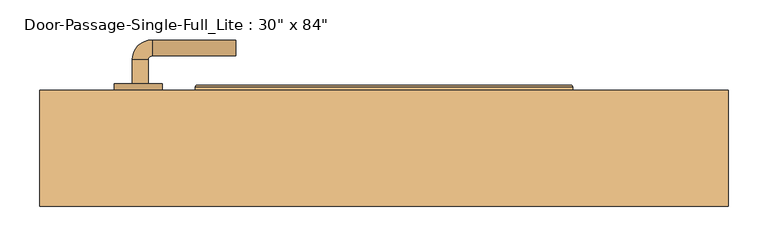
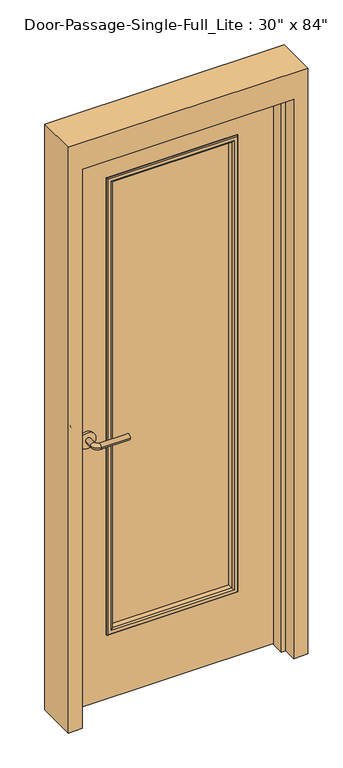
"""IFC4 building model written with IfcOpenShell, lengths in millimetres: door geometry."""

from ifc_helpers import new_model, si_unit, point, frame, frame_2d, origin, place, context, project, spatial, polyline, circle_curve, ellipse_curve, trimmed, segment, composite_curve, outline, extrude, faceted_brep, source, transform, mapped, element, save
from ifc_brep_helpers import plane_surface, cylinder_surface, revolved_surface, advanced_brep


def door_c549eee2(model_context):
    return source(origin(), model_context, "Body", "SolidModel", [
        advanced_brep(
        [(-315.990625, 80.9, 1016.0), (-295.990625, 80.9, 1016.0), (-295.990625, 50.9, 1016.0), (-315.990625, 50.9, 1016.0), (-290.990625, 45.9, 1016.0), (-290.990625, 25.9, 1016.0), (-185.990625, 25.9, 1016.0), (-185.990625, 45.9, 1016.0)],
        [
            (0, 1, circle_curve(frame((-305.990625, 80.9, 1016.0), z_axis=(0.0, 1.0, 0.0), x_axis=(1.0, 0.0, 0.0)), 10.0)),
            (1, 0, circle_curve(frame((-305.990625, 80.9, 1016.0), z_axis=(0.0, 1.0, 0.0), x_axis=(1.0, 0.0, 0.0)), 10.0)),
            (1, 2),
            (2, 3, circle_curve(frame((-305.990625, 50.9, 1016.0), z_axis=(0.0, 1.0, 0.0), x_axis=(1.0, 0.0, 0.0)), 10.0)),
            (3, 0),
            (3, 2, circle_curve(frame((-305.990625, 50.9, 1016.0), z_axis=(0.0, 1.0, 0.0), x_axis=(1.0, 0.0, 0.0)), 10.0)),
            (4, 5, circle_curve(frame((-290.990625, 35.9, 1016.0), z_axis=(-1.0, 0.0, 0.0), x_axis=(0.0, 1.0, 0.0)), 10.0)),
            (5, 3, circle_curve(frame((-290.990625, 50.9, 1016.0), z_axis=(0.0, 0.0, -1.0), x_axis=(-1.0, 0.0, 0.0)), 25.0)),
            (2, 4, circle_curve(frame((-290.990625, 50.9, 1016.0), z_axis=(0.0, 0.0, 1.0), x_axis=(-1.0, 0.0, 0.0)), 5.0)),
            (5, 4, circle_curve(frame((-290.990625, 35.9, 1016.0), z_axis=(-1.0, 0.0, 0.0), x_axis=(0.0, 1.0, 0.0)), 10.0)),
            (6, 7, circle_curve(frame((-185.990625, 35.9, 1016.0), z_axis=(1.0, 0.0, 0.0), x_axis=(0.0, 1.0, 0.0)), 10.0)),
            (7, 6, circle_curve(frame((-185.990625, 35.9, 1016.0), z_axis=(1.0, 0.0, 0.0), x_axis=(0.0, 1.0, 0.0)), 10.0)),
            (4, 7),
            (6, 5),
        ],
        [
            plane_surface(frame((-305.990625, 80.9, 1016.0), z_axis=(0.0, 1.0, 0.0), x_axis=(0.0, 0.0, 1.0))),
            cylinder_surface(frame((-305.990625, 80.9, 1016.0), z_axis=(0.0, 1.0, 0.0), x_axis=(1.0, 0.0, 0.0)), 10.0),
            revolved_surface(trimmed(ellipse_curve(frame((-305.990625, 50.9, 1016.0), z_axis=(0.0, -1.0, 0.0), x_axis=(1.0, 0.0, 0.0)), 10.0, 10.0), [point((-315.990625, 50.9, 1016.0))], [point((-295.990625, 50.9, 1016.0))], True, "CARTESIAN"), (-290.990625, 50.9, 1016.0), (0.0, 0.0, -1.0)),
            revolved_surface(trimmed(ellipse_curve(frame((-305.990625, 50.9, 1016.0), z_axis=(0.0, -1.0, 0.0), x_axis=(1.0, 0.0, 0.0)), 10.0, 10.0), [point((-295.990625, 50.9, 1016.0))], [point((-315.990625, 50.9, 1016.0))], True, "CARTESIAN"), (-290.990625, 50.9, 1016.0), (0.0, 0.0, -1.0)),
            plane_surface(frame((-185.990625, 35.9, 1016.0), z_axis=(1.0, 0.0, 0.0), x_axis=(0.0, 0.0, 1.0))),
            cylinder_surface(frame((-290.990625, 35.9, 1016.0), z_axis=(-1.0, 0.0, 0.0), x_axis=(0.0, 1.0, 0.0)), 10.0),
        ],
        [
            (0, [[1, 2]]),
            (1, [[3, 4, 5, -2]]),
            (1, [[-5, 6, -3, -1]]),
            (2, [[7, 8, -4, 9]]),
            (3, [[10, -9, -6, -8]]),
            (4, [[11, 12]]),
            (5, [[13, -11, 14, -7]]),
            (5, [[-14, -12, -13, -10]]),
        ],
    ),
        extrude(outline(composite_curve([segment(trimmed(circle_curve(frame_2d((1016.0, -308.490625)), 30.0), [point((1016.0, -338.490625))], [point((1016.0, -278.490625))], False, "CARTESIAN"), True, "CONTINUOUS"), segment(trimmed(circle_curve(frame_2d((1016.0, -308.490625)), 30.0), [point((1016.0, -278.490625))], [point((1016.0, -338.490625))], False, "CARTESIAN"), True, "CONTINUOUS")], self_intersect=False)), frame((0.0, 80.9, 0.0), z_axis=(0.0, 1.0, 0.0), x_axis=(0.0, 0.0, 1.0)), (0.0, 0.0, 1.0), 8.0),
        advanced_brep(
        [(-315.990625, 141.35, 1016.0), (-295.990625, 141.35, 1016.0), (-315.990625, 171.35, 1016.0), (-295.990625, 171.35, 1016.0), (-290.990625, 176.35, 1016.0), (-290.990625, 196.35, 1016.0), (-185.990625, 196.35, 1016.0), (-185.990625, 176.35, 1016.0)],
        [
            (0, 1, circle_curve(frame((-305.990625, 141.35, 1016.0), z_axis=(0.0, -1.0, 0.0), x_axis=(1.0, 0.0, 0.0)), 10.0)),
            (1, 0, circle_curve(frame((-305.990625, 141.35, 1016.0), z_axis=(0.0, -1.0, 0.0), x_axis=(1.0, 0.0, 0.0)), 10.0)),
            (0, 2),
            (2, 3, circle_curve(frame((-305.990625, 171.35, 1016.0), z_axis=(0.0, -1.0, 0.0), x_axis=(1.0, 0.0, 0.0)), 10.0)),
            (3, 1),
            (3, 2, circle_curve(frame((-305.990625, 171.35, 1016.0), z_axis=(0.0, -1.0, 0.0), x_axis=(1.0, 0.0, 0.0)), 10.0)),
            (4, 3, circle_curve(frame((-290.990625, 171.35, 1016.0), z_axis=(0.0, 0.0, 1.0), x_axis=(-1.0, 0.0, 0.0)), 5.0)),
            (2, 5, circle_curve(frame((-290.990625, 171.35, 1016.0), z_axis=(0.0, 0.0, -1.0), x_axis=(-1.0, 0.0, 0.0)), 25.0)),
            (5, 4, circle_curve(frame((-290.990625, 186.35, 1016.0), z_axis=(-1.0, 0.0, 0.0), x_axis=(0.0, -1.0, 0.0)), 10.0)),
            (4, 5, circle_curve(frame((-290.990625, 186.35, 1016.0), z_axis=(-1.0, 0.0, 0.0), x_axis=(0.0, -1.0, 0.0)), 10.0)),
            (6, 7, circle_curve(frame((-185.990625, 186.35, 1016.0), z_axis=(1.0, 0.0, 0.0), x_axis=(0.0, -1.0, 0.0)), 10.0)),
            (7, 6, circle_curve(frame((-185.990625, 186.35, 1016.0), z_axis=(1.0, 0.0, 0.0), x_axis=(0.0, -1.0, 0.0)), 10.0)),
            (5, 6),
            (7, 4),
        ],
        [
            plane_surface(frame((-305.990625, 141.35, 1016.0), z_axis=(0.0, -1.0, 0.0), x_axis=(0.0, 0.0, 1.0))),
            cylinder_surface(frame((-305.990625, 141.35, 1016.0), z_axis=(0.0, -1.0, 0.0), x_axis=(1.0, 0.0, 0.0)), 10.0),
            revolved_surface(trimmed(ellipse_curve(frame((-305.990625, 171.35, 1016.0), z_axis=(0.0, -1.0, 0.0), x_axis=(1.0, 0.0, 0.0)), 10.0, 10.0), [point((-315.990625, 171.35, 1016.0))], [point((-295.990625, 171.35, 1016.0))], True, "CARTESIAN"), (-290.990625, 171.35, 1016.0), (0.0, 0.0, -1.0)),
            revolved_surface(trimmed(ellipse_curve(frame((-305.990625, 171.35, 1016.0), z_axis=(0.0, -1.0, 0.0), x_axis=(1.0, 0.0, 0.0)), 10.0, 10.0), [point((-295.990625, 171.35, 1016.0))], [point((-315.990625, 171.35, 1016.0))], True, "CARTESIAN"), (-290.990625, 171.35, 1016.0), (0.0, 0.0, -1.0)),
            plane_surface(frame((-185.990625, 186.35, 1016.0), z_axis=(1.0, 0.0, 0.0), x_axis=(0.0, 0.0, 1.0))),
            cylinder_surface(frame((-290.990625, 186.35, 1016.0), z_axis=(-1.0, 0.0, 0.0), x_axis=(0.0, -1.0, 0.0)), 10.0),
        ],
        [
            (0, [[1, 2]]),
            (1, [[-1, 3, 4, 5]]),
            (1, [[-2, -5, 6, -3]]),
            (2, [[7, -4, 8, 9]]),
            (3, [[-8, -6, -7, 10]]),
            (4, [[11, 12]]),
            (5, [[-9, 13, -12, 14]]),
            (5, [[-10, -14, -11, -13]]),
        ],
    ),
        extrude(outline(composite_curve([segment(trimmed(circle_curve(frame_2d((1016.0, -308.490625)), 30.0), [point((1016.0, -338.490625))], [point((1016.0, -278.490625))], False, "CARTESIAN"), True, "CONTINUOUS"), segment(trimmed(circle_curve(frame_2d((1016.0, -308.490625)), 30.0), [point((1016.0, -278.490625))], [point((1016.0, -338.490625))], False, "CARTESIAN"), True, "CONTINUOUS")], self_intersect=False)), frame((0.0, 133.35, 0.0), z_axis=(0.0, 1.0, 0.0), x_axis=(0.0, 0.0, 1.0)), (0.0, 0.0, 1.0), 8.0),
        extrude(outline(polyline([(228.6, 107.95), (-228.6, 107.95), (-228.6, 114.3), (228.6, 114.3), (228.6, 107.95)])), frame((0.0, 0.0, 254.0), z_axis=(0.0, 0.0, 1.0), x_axis=(1.0, 0.0, 0.0)), (0.0, 0.0, 1.0), 1727.2),
        faceted_brep([(381.0, 84.1375, 0.0), (381.0, 133.35, 0.0), (431.8, 133.35, 0.0), (431.8, -12.7, 0.0), (381.0, -12.7, 0.0), (381.0, 36.5125, 0.0), (365.125, 36.5125, 0.0), (365.125, 84.1375, 0.0), (381.0, 84.1375, 2133.6), (381.0, 133.35, 2133.6), (-381.0, 133.35, 2133.6), (-381.0, 133.35, 0.0), (-431.8, 133.35, 0.0), (-431.8, 133.35, 2235.2), (431.8, 133.35, 2235.2), (431.8, -12.7, 2235.2), (-431.8, -12.7, 2235.2), (-431.8, -12.7, 0.0), (-381.0, -12.7, 0.0), (-381.0, -12.7, 2133.6), (381.0, -12.7, 2133.6), (381.0, 36.5125, 2133.6), (-381.0, 36.5125, 2133.6), (-381.0, 36.5125, 0.0), (-365.125, 36.5125, 0.0), (-365.125, 36.5125, 2117.725), (365.125, 36.5125, 2117.725), (365.125, 84.1375, 2117.725), (-365.125, 84.1375, 2117.725), (-365.125, 84.1375, 0.0), (-381.0, 84.1375, 0.0), (-381.0, 84.1375, 2133.6)], [[[0, 1, 2, 3, 4, 5, 6, 7]], [[1, 0, 8, 9]], [[2, 1, 9, 10, 11, 12, 13, 14]], [[3, 2, 14, 15]], [[4, 3, 15, 16, 17, 18, 19, 20]], [[5, 4, 20, 21]], [[6, 5, 21, 22, 23, 24, 25, 26]], [[7, 6, 26, 27]], [[0, 7, 27, 28, 29, 30, 31, 8]], [[9, 8, 31, 10]], [[20, 19, 22, 21]], [[26, 25, 28, 27]], [[12, 11, 30, 29, 24, 23, 18, 17]], [[11, 10, 31, 30]], [[13, 12, 17, 16]], [[19, 18, 23, 22]], [[25, 24, 29, 28]], [[15, 14, 13, 16]]]),
        extrude(outline(polyline([(2133.6, -381.0), (0.0, -381.0), (0.0, 381.0), (2133.6, 381.0), (2133.6, -381.0)]), holes=[polyline([(1981.2, -228.6), (1981.2, 228.6), (254.0, 228.6), (254.0, -228.6), (1981.2, -228.6)])]), frame((0.0, 88.9, 0.0), z_axis=(0.0, 1.0, 0.0), x_axis=(0.0, 0.0, 1.0)), (0.0, 0.0, 1.0), 44.45),
        advanced_brep(
        [(-228.6, 114.3, 1981.2), (-228.6, 133.35, 1981.2), (-228.6, 133.35, 254.0), (-228.6, 114.3, 254.0), (-216.6, 134.35, 1969.2), (-216.6, 114.3, 1969.2), (-216.6, 114.3, 266.0), (-216.6, 134.35, 266.0), (-221.6, 139.35, 1974.2), (-221.6, 139.35, 261.0), (-236.6, 137.35, 1989.2), (-234.6, 139.35, 1987.2), (-234.6, 139.35, 248.0), (-236.6, 137.35, 246.0), (-236.6, 133.35, 1989.2), (-236.6, 133.35, 246.0), (228.6, 133.35, 254.0), (228.6, 114.3, 254.0), (216.6, 114.3, 266.0), (216.6, 134.35, 266.0), (221.6, 139.35, 261.0), (234.6, 139.35, 248.0), (236.6, 137.35, 246.0), (236.6, 133.35, 246.0), (228.6, 133.35, 1981.2), (228.6, 114.3, 1981.2), (216.6, 114.3, 1969.2), (216.6, 134.35, 1969.2), (221.6, 139.35, 1974.2), (234.6, 139.35, 1987.2), (236.6, 137.35, 1989.2), (236.6, 133.35, 1989.2)],
        [
            (0, 1),
            (1, 2),
            (2, 3),
            (3, 0),
            (4, 5),
            (5, 6),
            (6, 7),
            (7, 4),
            (8, 4, ellipse_curve(frame((-221.6, 134.35, 1974.2), z_axis=(-0.7071067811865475, 0.0, -0.7071067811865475), x_axis=(-0.7071067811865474, 0.0, 0.7071067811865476)), 7.0710678, 5.0)),
            (7, 9, ellipse_curve(frame((-221.6, 134.35, 261.0), z_axis=(-0.7071067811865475, 0.0, 0.7071067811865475), x_axis=(0.7071067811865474, 0.0, 0.7071067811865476)), 7.0710678, 5.0)),
            (9, 8),
            (10, 11, ellipse_curve(frame((-234.6, 137.35, 1987.2), z_axis=(-0.7071067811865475, 0.0, -0.7071067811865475), x_axis=(-0.7071067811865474, 0.0, 0.7071067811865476)), 2.8284271, 2.0)),
            (11, 12),
            (12, 13, ellipse_curve(frame((-234.6, 137.35, 248.0), z_axis=(-0.7071067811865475, 0.0, 0.7071067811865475), x_axis=(0.7071067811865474, 0.0, 0.7071067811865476)), 2.8284271, 2.0)),
            (13, 10),
            (14, 10),
            (13, 15),
            (15, 14),
            (2, 16),
            (16, 17),
            (17, 3),
            (6, 18),
            (18, 19),
            (19, 7),
            (19, 20, ellipse_curve(frame((221.6, 134.35, 261.0), z_axis=(-0.7071067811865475, 0.0, -0.7071067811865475), x_axis=(-0.7071067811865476, 0.0, 0.7071067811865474)), 7.0710678, 5.0)),
            (20, 9),
            (12, 21),
            (21, 22, ellipse_curve(frame((234.6, 137.35, 248.0), z_axis=(-0.7071067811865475, 0.0, -0.7071067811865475), x_axis=(-0.7071067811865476, 0.0, 0.7071067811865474)), 2.8284271, 2.0)),
            (22, 13),
            (22, 23),
            (23, 15),
            (16, 24),
            (24, 25),
            (25, 17),
            (18, 26),
            (26, 27),
            (27, 19),
            (27, 28, ellipse_curve(frame((221.6, 134.35, 1974.2), z_axis=(0.7071067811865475, 0.0, -0.7071067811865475), x_axis=(-0.7071067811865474, 0.0, -0.7071067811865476)), 7.0710678, 5.0)),
            (28, 20),
            (21, 29),
            (29, 30, ellipse_curve(frame((234.6, 137.35, 1987.2), z_axis=(0.7071067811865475, 0.0, -0.7071067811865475), x_axis=(-0.7071067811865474, 0.0, -0.7071067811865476)), 2.8284271, 2.0)),
            (30, 22),
            (30, 31),
            (31, 23),
            (31, 14),
            (1, 24),
            (0, 25),
            (5, 26),
            (4, 27),
            (8, 28),
            (11, 29),
            (10, 30),
        ],
        [
            plane_surface(frame((-228.6, 133.35, 1981.2), z_axis=(-1.0, 0.0, 0.0), x_axis=(0.0, 0.0, -1.0))),
            plane_surface(frame((-216.6, 114.3, 1969.2), z_axis=(1.0, 0.0, 0.0), x_axis=(0.0, 0.0, -1.0))),
            cylinder_surface(frame((-221.6, 134.35, 1981.2), z_axis=(0.0, 0.0, 1.0), x_axis=(-1.0, 0.0, 0.0)), 5.0),
            cylinder_surface(frame((-234.6, 137.35, 1981.2), z_axis=(0.0, 0.0, 1.0), x_axis=(-1.0, 0.0, 0.0)), 2.0),
            plane_surface(frame((-236.6, 137.35, 1989.2), z_axis=(-1.0, 0.0, 0.0), x_axis=(0.0, 0.0, -1.0))),
            plane_surface(frame((-228.6, 133.35, 254.0), z_axis=(0.0, 0.0, -1.0), x_axis=(1.0, 0.0, 0.0))),
            plane_surface(frame((-216.6, 114.3, 266.0), z_axis=(0.0, 0.0, 1.0), x_axis=(1.0, 0.0, 0.0))),
            cylinder_surface(frame((-228.6, 134.35, 261.0), z_axis=(-1.0, 0.0, 0.0), x_axis=(0.0, 0.0, -1.0)), 5.0),
            cylinder_surface(frame((-228.6, 137.35, 248.0), z_axis=(-1.0, 0.0, 0.0), x_axis=(0.0, 0.0, -1.0)), 2.0),
            plane_surface(frame((-236.6, 137.35, 246.0), z_axis=(0.0, 0.0, -1.0), x_axis=(1.0, 0.0, 0.0))),
            plane_surface(frame((228.6, 133.35, 254.0), z_axis=(1.0, 0.0, 0.0), x_axis=(0.0, 0.0, 1.0))),
            plane_surface(frame((216.6, 114.3, 266.0), z_axis=(-1.0, 0.0, 0.0), x_axis=(0.0, 0.0, 1.0))),
            cylinder_surface(frame((221.6, 134.35, 254.0), z_axis=(0.0, 0.0, -1.0), x_axis=(1.0, 0.0, 0.0)), 5.0),
            cylinder_surface(frame((234.6, 137.35, 254.0), z_axis=(0.0, 0.0, -1.0), x_axis=(1.0, 0.0, 0.0)), 2.0),
            plane_surface(frame((236.6, 137.35, 246.0), z_axis=(1.0, 0.0, 0.0), x_axis=(0.0, 0.0, 1.0))),
            plane_surface(frame((236.6, 133.35, 1989.2), z_axis=(0.0, -1.0, 0.0), x_axis=(-1.0, 0.0, 0.0))),
            plane_surface(frame((228.6, 133.35, 1981.2), z_axis=(0.0, 0.0, 1.0), x_axis=(-1.0, 0.0, 0.0))),
            plane_surface(frame((228.6, 114.3, 1981.2), z_axis=(0.0, -1.0, 0.0), x_axis=(-1.0, 0.0, 0.0))),
            plane_surface(frame((216.6, 114.3, 1969.2), z_axis=(0.0, 0.0, -1.0), x_axis=(-1.0, 0.0, 0.0))),
            cylinder_surface(frame((228.6, 134.35, 1974.2), z_axis=(1.0, 0.0, 0.0), x_axis=(0.0, 0.0, 1.0)), 5.0),
            plane_surface(frame((221.6, 139.35, 1974.2), z_axis=(0.0, 1.0, 0.0), x_axis=(-1.0, 0.0, 0.0))),
            cylinder_surface(frame((228.6, 137.35, 1987.2), z_axis=(1.0, 0.0, 0.0), x_axis=(0.0, 0.0, 1.0)), 2.0),
            plane_surface(frame((236.6, 137.35, 1989.2), z_axis=(0.0, 0.0, 1.0), x_axis=(-1.0, 0.0, 0.0))),
        ],
        [
            (0, [[1, 2, 3, 4]]),
            (1, [[5, 6, 7, 8]]),
            (2, [[9, -8, 10, 11]]),
            (3, [[12, 13, 14, 15]]),
            (4, [[16, -15, 17, 18]]),
            (5, [[-3, 19, 20, 21]]),
            (6, [[-7, 22, 23, 24]]),
            (7, [[-10, -24, 25, 26]]),
            (8, [[-14, 27, 28, 29]]),
            (9, [[-17, -29, 30, 31]]),
            (10, [[-20, 32, 33, 34]]),
            (11, [[-23, 35, 36, 37]]),
            (12, [[-25, -37, 38, 39]]),
            (13, [[-28, 40, 41, 42]]),
            (14, [[-30, -42, 43, 44]]),
            (15, [[-31, -44, 45, -18], [46, -32, -19, -2]]),
            (16, [[-33, -46, -1, 47]]),
            (17, [[-21, -34, -47, -4], [48, -35, -22, -6]]),
            (18, [[-36, -48, -5, 49]]),
            (19, [[-38, -49, -9, 50]]),
            (20, [[51, -40, -27, -13], [-26, -39, -50, -11]]),
            (21, [[-41, -51, -12, 52]]),
            (22, [[-43, -52, -16, -45]]),
        ],
    ),
        advanced_brep(
        [(-228.6, 107.95, 254.0), (-228.6, 88.9, 254.0), (-228.6, 88.9, 1981.2), (-228.6, 107.95, 1981.2), (-216.6, 87.9, 266.0), (-216.6, 107.95, 266.0), (-216.6, 107.95, 1969.2), (-216.6, 87.9, 1969.2), (-221.6, 82.9, 261.0), (-221.6, 82.9, 1974.2), (-236.6, 84.9, 246.0), (-234.6, 82.9, 248.0), (-234.6, 82.9, 1987.2), (-236.6, 84.9, 1989.2), (-236.6, 88.9, 246.0), (-236.6, 88.9, 1989.2), (228.6, 88.9, 1981.2), (228.6, 107.95, 1981.2), (216.6, 107.95, 1969.2), (216.6, 87.9, 1969.2), (221.6, 82.9, 1974.2), (234.6, 82.9, 1987.2), (236.6, 84.9, 1989.2), (236.6, 88.9, 1989.2), (228.6, 88.9, 254.0), (228.6, 107.95, 254.0), (216.6, 107.95, 266.0), (216.6, 87.9, 266.0), (221.6, 82.9, 261.0), (234.6, 82.9, 248.0), (236.6, 84.9, 246.0), (236.6, 88.9, 246.0)],
        [
            (0, 1),
            (1, 2),
            (2, 3),
            (3, 0),
            (4, 5),
            (5, 6),
            (6, 7),
            (7, 4),
            (8, 4, ellipse_curve(frame((-221.6, 87.9, 261.0), z_axis=(-0.7071067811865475, 0.0, 0.7071067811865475), x_axis=(-0.7071067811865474, 0.0, -0.7071067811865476)), 7.0710678, 5.0)),
            (7, 9, ellipse_curve(frame((-221.6, 87.9, 1974.2), z_axis=(-0.7071067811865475, 0.0, -0.7071067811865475), x_axis=(0.7071067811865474, 0.0, -0.7071067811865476)), 7.0710678, 5.0)),
            (9, 8),
            (10, 11, ellipse_curve(frame((-234.6, 84.9, 248.0), z_axis=(-0.7071067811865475, 0.0, 0.7071067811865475), x_axis=(-0.7071067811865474, 0.0, -0.7071067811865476)), 2.8284271, 2.0)),
            (11, 12),
            (12, 13, ellipse_curve(frame((-234.6, 84.9, 1987.2), z_axis=(-0.7071067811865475, 0.0, -0.7071067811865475), x_axis=(0.7071067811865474, 0.0, -0.7071067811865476)), 2.8284271, 2.0)),
            (13, 10),
            (14, 10),
            (13, 15),
            (15, 14),
            (2, 16),
            (16, 17),
            (17, 3),
            (6, 18),
            (18, 19),
            (19, 7),
            (19, 20, ellipse_curve(frame((221.6, 87.9, 1974.2), z_axis=(-0.7071067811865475, 0.0, 0.7071067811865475), x_axis=(-0.7071067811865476, 0.0, -0.7071067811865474)), 7.0710678, 5.0)),
            (20, 9),
            (12, 21),
            (21, 22, ellipse_curve(frame((234.6, 84.9, 1987.2), z_axis=(-0.7071067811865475, 0.0, 0.7071067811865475), x_axis=(-0.7071067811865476, 0.0, -0.7071067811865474)), 2.8284271, 2.0)),
            (22, 13),
            (22, 23),
            (23, 15),
            (16, 24),
            (24, 25),
            (25, 17),
            (18, 26),
            (26, 27),
            (27, 19),
            (27, 28, ellipse_curve(frame((221.6, 87.9, 261.0), z_axis=(0.7071067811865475, 0.0, 0.7071067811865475), x_axis=(-0.7071067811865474, 0.0, 0.7071067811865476)), 7.0710678, 5.0)),
            (28, 20),
            (21, 29),
            (29, 30, ellipse_curve(frame((234.6, 84.9, 248.0), z_axis=(0.7071067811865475, 0.0, 0.7071067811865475), x_axis=(-0.7071067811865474, 0.0, 0.7071067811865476)), 2.8284271, 2.0)),
            (30, 22),
            (30, 31),
            (31, 23),
            (31, 14),
            (1, 24),
            (0, 25),
            (5, 26),
            (4, 27),
            (8, 28),
            (11, 29),
            (10, 30),
        ],
        [
            plane_surface(frame((-228.6, 88.9, 254.0), z_axis=(-1.0, 0.0, 0.0), x_axis=(0.0, 0.0, 1.0))),
            plane_surface(frame((-216.6, 107.95, 266.0), z_axis=(1.0, 0.0, 0.0), x_axis=(0.0, 0.0, 1.0))),
            cylinder_surface(frame((-221.6, 87.9, 254.0), z_axis=(0.0, 0.0, -1.0), x_axis=(-1.0, 0.0, 0.0)), 5.0),
            cylinder_surface(frame((-234.6, 84.9, 254.0), z_axis=(0.0, 0.0, -1.0), x_axis=(-1.0, 0.0, 0.0)), 2.0),
            plane_surface(frame((-236.6, 84.9, 246.0), z_axis=(-1.0, 0.0, 0.0), x_axis=(0.0, 0.0, 1.0))),
            plane_surface(frame((-228.6, 88.9, 1981.2), z_axis=(0.0, 0.0, 1.0), x_axis=(1.0, 0.0, 0.0))),
            plane_surface(frame((-216.6, 107.95, 1969.2), z_axis=(0.0, 0.0, -1.0), x_axis=(1.0, 0.0, 0.0))),
            cylinder_surface(frame((-228.6, 87.9, 1974.2), z_axis=(-1.0, 0.0, 0.0), x_axis=(0.0, 0.0, 1.0)), 5.0),
            cylinder_surface(frame((-228.6, 84.9, 1987.2), z_axis=(-1.0, 0.0, 0.0), x_axis=(0.0, 0.0, 1.0)), 2.0),
            plane_surface(frame((-236.6, 84.9, 1989.2), z_axis=(0.0, 0.0, 1.0), x_axis=(1.0, 0.0, 0.0))),
            plane_surface(frame((228.6, 88.9, 1981.2), z_axis=(1.0, 0.0, 0.0), x_axis=(0.0, 0.0, -1.0))),
            plane_surface(frame((216.6, 107.95, 1969.2), z_axis=(-1.0, 0.0, 0.0), x_axis=(0.0, 0.0, -1.0))),
            cylinder_surface(frame((221.6, 87.9, 1981.2), z_axis=(0.0, 0.0, 1.0), x_axis=(1.0, 0.0, 0.0)), 5.0),
            cylinder_surface(frame((234.6, 84.9, 1981.2), z_axis=(0.0, 0.0, 1.0), x_axis=(1.0, 0.0, 0.0)), 2.0),
            plane_surface(frame((236.6, 84.9, 1989.2), z_axis=(1.0, 0.0, 0.0), x_axis=(0.0, 0.0, -1.0))),
            plane_surface(frame((236.6, 88.9, 246.0), z_axis=(0.0, 1.0, 0.0), x_axis=(-1.0, 0.0, 0.0))),
            plane_surface(frame((228.6, 88.9, 254.0), z_axis=(0.0, 0.0, -1.0), x_axis=(-1.0, 0.0, 0.0))),
            plane_surface(frame((228.6, 107.95, 254.0), z_axis=(0.0, 1.0, 0.0), x_axis=(-1.0, 0.0, 0.0))),
            plane_surface(frame((216.6, 107.95, 266.0), z_axis=(0.0, 0.0, 1.0), x_axis=(-1.0, 0.0, 0.0))),
            cylinder_surface(frame((228.6, 87.9, 261.0), z_axis=(1.0, 0.0, 0.0), x_axis=(0.0, 0.0, -1.0)), 5.0),
            plane_surface(frame((221.6, 82.9, 261.0), z_axis=(0.0, -1.0, 0.0), x_axis=(-1.0, 0.0, 0.0))),
            cylinder_surface(frame((228.6, 84.9, 248.0), z_axis=(1.0, 0.0, 0.0), x_axis=(0.0, 0.0, -1.0)), 2.0),
            plane_surface(frame((236.6, 84.9, 246.0), z_axis=(0.0, 0.0, -1.0), x_axis=(-1.0, 0.0, 0.0))),
        ],
        [
            (0, [[1, 2, 3, 4]]),
            (1, [[5, 6, 7, 8]]),
            (2, [[9, -8, 10, 11]]),
            (3, [[12, 13, 14, 15]]),
            (4, [[16, -15, 17, 18]]),
            (5, [[-3, 19, 20, 21]]),
            (6, [[-7, 22, 23, 24]]),
            (7, [[-10, -24, 25, 26]]),
            (8, [[-14, 27, 28, 29]]),
            (9, [[-17, -29, 30, 31]]),
            (10, [[-20, 32, 33, 34]]),
            (11, [[-23, 35, 36, 37]]),
            (12, [[-25, -37, 38, 39]]),
            (13, [[-28, 40, 41, 42]]),
            (14, [[-30, -42, 43, 44]]),
            (15, [[-31, -44, 45, -18], [46, -32, -19, -2]]),
            (16, [[-33, -46, -1, 47]]),
            (17, [[-21, -34, -47, -4], [48, -35, -22, -6]]),
            (18, [[-36, -48, -5, 49]]),
            (19, [[-38, -49, -9, 50]]),
            (20, [[51, -40, -27, -13], [-26, -39, -50, -11]]),
            (21, [[-41, -51, -12, 52]]),
            (22, [[-43, -52, -16, -45]]),
        ],
    ),
    ])


if __name__ == "__main__":
    model = new_model("IFC4")
    model_context = context("Model", 3, world=origin())
    ifc_project = project(units=[si_unit("LENGTHUNIT", "METRE", prefix="MILLI")], contexts=[model_context])
    site = spatial("IfcSite", under=ifc_project)
    building = spatial("IfcBuilding", under=site)
    placement = place(None, origin())
    door_shape = door_c549eee2(model_context)
    element("IfcDoor", 1, ObjectType="Door-Passage-Single-Full_Lite : 30\" x 84\"", at=placement, inside=building, context=model_context, shape_type="MappedRepresentation", body=[
        mapped(door_shape, transform((0.0, 0.0, 0.0), x_axis=(1.0, 0.0, 0.0), y_axis=(0.0, 1.0, 0.0), z_axis=(0.0, 0.0, 1.0))),
    ])
    save(model, "model.ifc")
